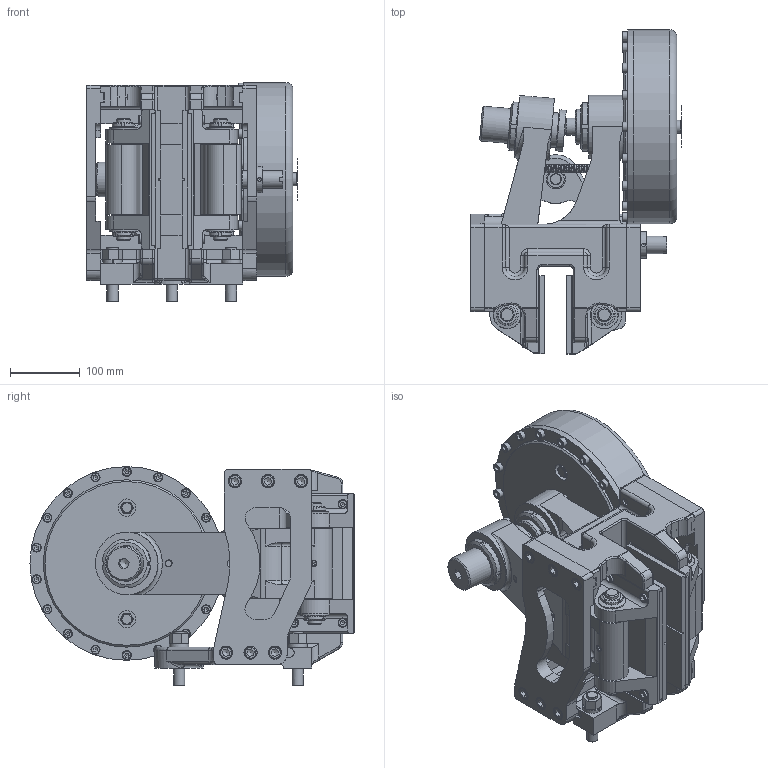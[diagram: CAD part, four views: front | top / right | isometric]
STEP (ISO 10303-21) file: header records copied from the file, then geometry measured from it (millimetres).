
FILE_DESCRIPTION(/* description */ ('','CAx-IF Rec.Pracs.---Representation and Presentation of Product Manufacturing Information (PMI)---4.0---2014-10-13'),/* implementation_level */ '2;1');
FILE_NAME(/* name */ 'X:\INVENTOR\DISEGNI\19_Pinze\STEP x Sito\PNEUM-POSITIVE\19_16_068_05 PPT068_30.stp',/* time_stamp */ '2018-10-25T15:46:16+02:00',/* author */ ('stefano'),/* organization */ (''),/* preprocessor_version */ 'ST-DEVELOPER v17',/* originating_system */ 'Autodesk Inventor 2018',/* authorisation */ '');
FILE_SCHEMA (('AP242_MANAGED_MODEL_BASED_3D_ENGINEERING_MIM_LF { 1 0 10303 442 1 1 4 }'));
Products named in the file (1): 19_16_068_05 PPT068_30_Substitute_2
Bounding box: 302.1 x 465 x 314 mm (x, y, z)
Volume: 12669936.1 mm3; surface area: 1098546.9 mm2
Topology: 1 solids, 1 shells, 1791 faces, 4931 edges, 3204 vertices
Faces by surface type: plane 904, cylinder 475, torus 184, cone 176, bspline 32, sphere 20
Full cylindrical faces by diameter (mm): 1.8 x2, 5.25 x4, 7.4 x1, 7.5 x2, 8 x9, 8.376 x1, 8.5 x8, 8.917 x2, 9 x1, 9.188 x1, 10 x2, 10.106 x9, 10.5 x4, 10.647 x2, 12 x13, 12.5 x12, 13 x27, 13.5 x8, 14 x1, 16 x6, 16.5 x4, 17 x3, 18 x14, 18.631 x1, 19 x12, 19.5 x1, 20 x12, 22 x6, 25 x7, 28 x1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
Entity records: 68537 total; most frequent: CARTESIAN_POINT 21503, ORIENTED_EDGE 9712, DIRECTION 9556, EDGE_CURVE 4856, AXIS2_PLACEMENT_3D 3629, VERTEX_POINT 3204, LINE 2298, VECTOR 2298
